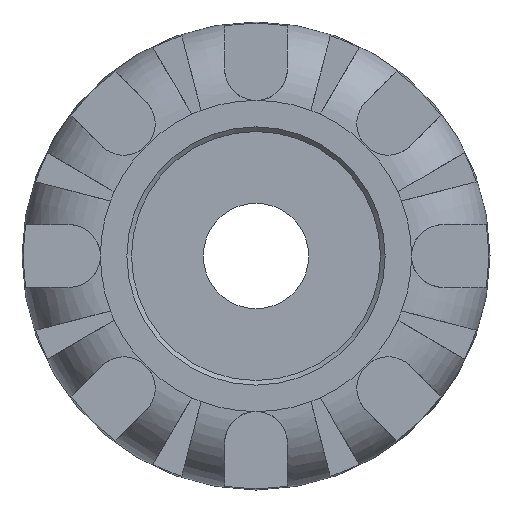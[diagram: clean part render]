
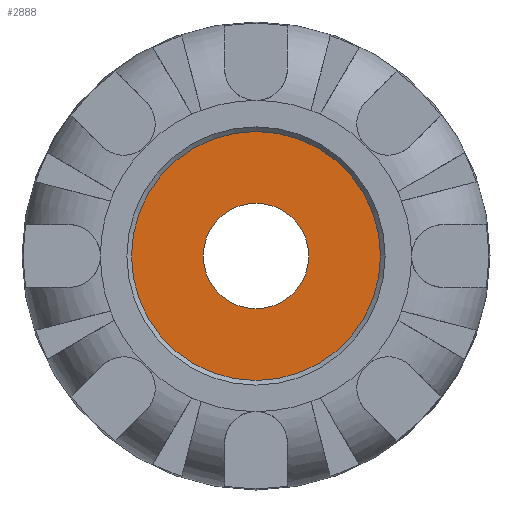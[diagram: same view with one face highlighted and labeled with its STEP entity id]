
A CAD part, left-side view. The second image highlights one B-rep face of the part: STEP entity #2888.
In plain terms, the highlighted planar face has unit normal (-1, 0, 0).
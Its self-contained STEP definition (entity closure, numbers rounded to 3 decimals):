
#37=FACE_BOUND('',#581,.T.);
#139=CIRCLE('',#3075,12.5);
#186=CIRCLE('',#3197,5.292);
#399=FACE_OUTER_BOUND('',#580,.T.);
#580=EDGE_LOOP('',(#2450));
#581=EDGE_LOOP('',(#2451));
#1140=VERTEX_POINT('',#5301);
#1239=VERTEX_POINT('',#6417);
#1474=EDGE_CURVE('',#1140,#1140,#139,.T.);
#1643=EDGE_CURVE('',#1239,#1239,#186,.T.);
#2450=ORIENTED_EDGE('',*,*,#1474,.F.);
#2451=ORIENTED_EDGE('',*,*,#1643,.T.);
#2559=PLANE('',#3198);
#2888=ADVANCED_FACE('',(#399,#37),#2559,.T.);
#3075=AXIS2_PLACEMENT_3D('',#5302,#3645,#3646);
#3197=AXIS2_PLACEMENT_3D('',#6418,#3957,#3958);
#3198=AXIS2_PLACEMENT_3D('',#6419,#3959,#3960);
#3645=DIRECTION('center_axis',(1.,0.,0.));
#3646=DIRECTION('ref_axis',(0.,0.,-1.));
#3957=DIRECTION('center_axis',(1.,0.,0.));
#3958=DIRECTION('ref_axis',(0.,0.,-1.));
#3959=DIRECTION('center_axis',(-1.,0.,0.));
#3960=DIRECTION('ref_axis',(0.,0.,1.));
#5301=CARTESIAN_POINT('',(-2.,12.5,0.));
#5302=CARTESIAN_POINT('Origin',(-2.,0.,
0.));
#6417=CARTESIAN_POINT('',(-2.,5.292,0.));
#6418=CARTESIAN_POINT('Origin',(-2.,0.,
0.));
#6419=CARTESIAN_POINT('Origin',(-2.,12.5,0.));
